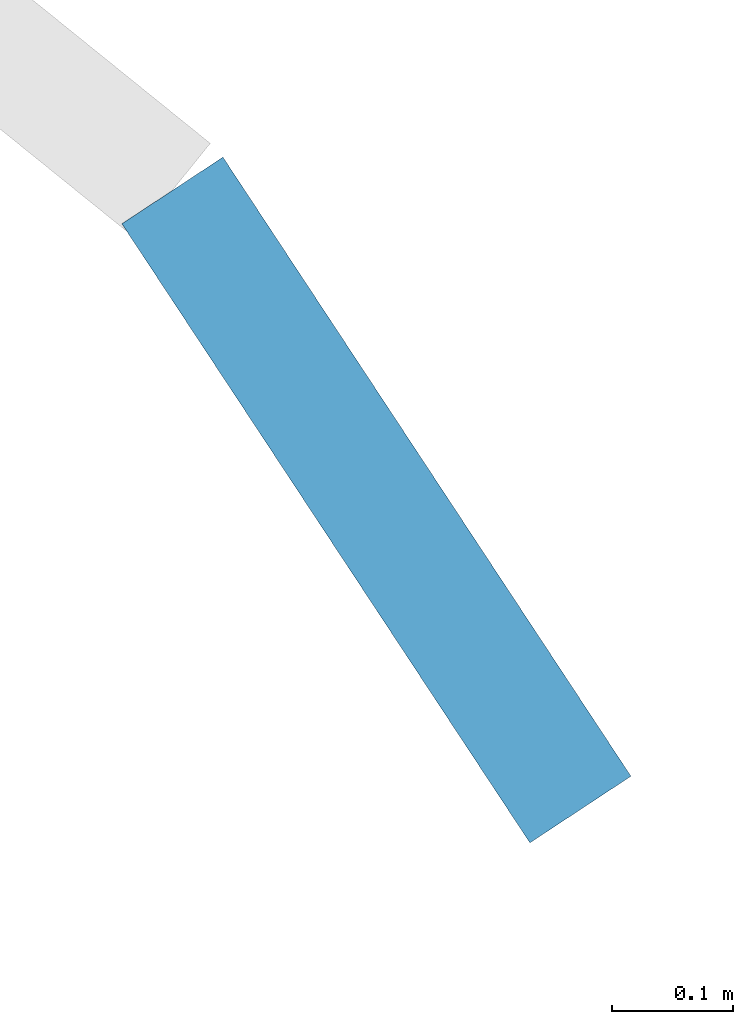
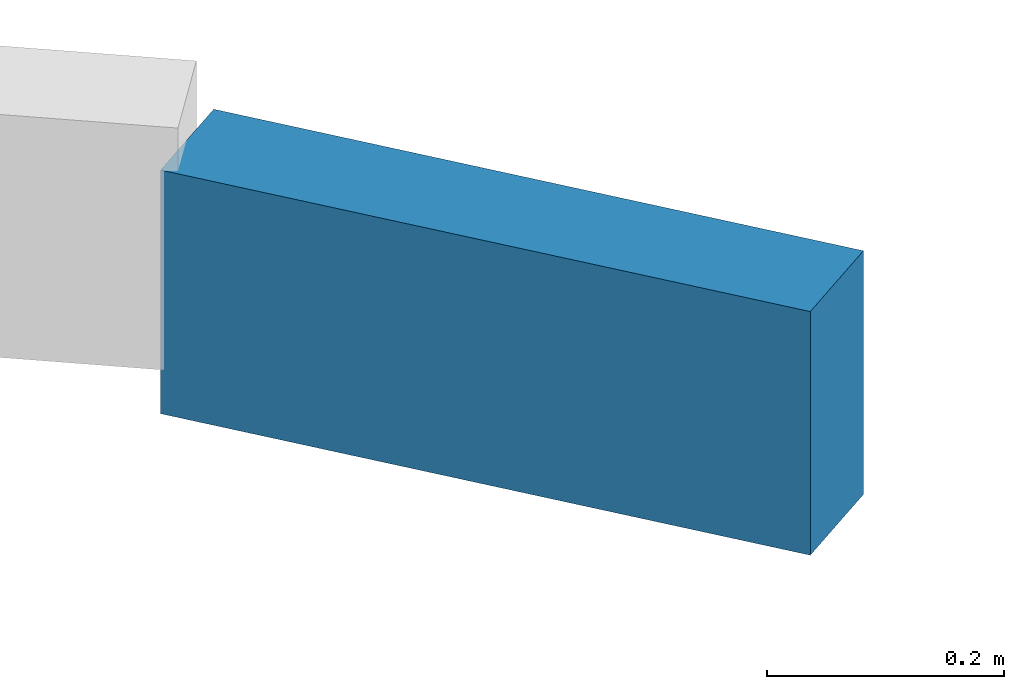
# One storey, part 38 of 157: 1 beam.
"""IFC2X3 building model written with IfcOpenShell, lengths in millimetres."""

from ifc_helpers import new_model, entity, si_unit, converted_unit, derived_unit, direction, frame, origin, place, context, subcontext, project, spatial, polyline, outline, extrude, material, type_object, element, save


model = new_model("IFC2X3")

# Units and contexts
model_context = context("Model", 3, precision=0.01, world=origin(), true_north=direction((6.123031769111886e-17, 1.0)))
body_context = subcontext(model_context, "Body", "Model", "MODEL_VIEW")
ifc_project = project(units=[si_unit("LENGTHUNIT", "METRE", prefix="MILLI"), si_unit("AREAUNIT", "SQUARE_METRE"), si_unit("VOLUMEUNIT", "CUBIC_METRE"), converted_unit("PLANEANGLEUNIT", "DEGREE", entity("IfcRatioMeasure", 0.017453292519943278), si_unit("PLANEANGLEUNIT", "RADIAN"), dimensions=[0, 0, 0, 0, 0, 0, 0]), si_unit("MASSUNIT", "GRAM", prefix="KILO"), derived_unit("MASSDENSITYUNIT", [(si_unit("MASSUNIT", "GRAM", prefix="KILO"), 1), (si_unit("LENGTHUNIT", "METRE"), -3)]), derived_unit("MOMENTOFINERTIAUNIT", [(si_unit("LENGTHUNIT", "METRE"), 4)]), si_unit("TIMEUNIT", "SECOND"), si_unit("FREQUENCYUNIT", "HERTZ"), si_unit("THERMODYNAMICTEMPERATUREUNIT", "DEGREE_CELSIUS"), derived_unit("THERMALTRANSMITTANCEUNIT", [(si_unit("MASSUNIT", "GRAM", prefix="KILO"), 1), (si_unit("THERMODYNAMICTEMPERATUREUNIT", "KELVIN"), -1), (si_unit("TIMEUNIT", "SECOND"), -3)]), derived_unit("THERMALCONDUCTANCEUNIT", [(si_unit("MASSUNIT", "GRAM", prefix="KILO"), 1), (si_unit("LENGTHUNIT", "METRE"), 1), (si_unit("THERMODYNAMICTEMPERATUREUNIT", "KELVIN"), -1), (si_unit("TIMEUNIT", "SECOND"), -3)]), derived_unit("VOLUMETRICFLOWRATEUNIT", [(si_unit("LENGTHUNIT", "METRE"), 3), (si_unit("TIMEUNIT", "SECOND"), -1)]), derived_unit("MASSFLOWRATEUNIT", [(si_unit("MASSUNIT", "GRAM", prefix="KILO"), 1), (si_unit("TIMEUNIT", "SECOND"), -1)]), derived_unit("ROTATIONALFREQUENCYUNIT", [(si_unit("TIMEUNIT", "SECOND"), -1)]), si_unit("ELECTRICCURRENTUNIT", "AMPERE"), si_unit("ELECTRICVOLTAGEUNIT", "VOLT"), si_unit("POWERUNIT", "WATT"), converted_unit("FORCEUNIT", "KIP", entity("IfcRatioMeasure", 2.088543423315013e-05), si_unit("FORCEUNIT", "NEWTON"), dimensions=[1, 1, -2, 0, 0, 0, 0]), si_unit("ILLUMINANCEUNIT", "LUX"), si_unit("LUMINOUSFLUXUNIT", "LUMEN"), si_unit("LUMINOUSINTENSITYUNIT", "CANDELA"), derived_unit("USERDEFINED", [(si_unit("MASSUNIT", "GRAM", prefix="KILO"), -1), (si_unit("LENGTHUNIT", "METRE"), -2), (si_unit("TIMEUNIT", "SECOND"), 3), (si_unit("LUMINOUSFLUXUNIT", "LUMEN"), 1)]), derived_unit("USERDEFINED", [(si_unit("MASSUNIT", "GRAM", prefix="KILO"), 1), (si_unit("LENGTHUNIT", "METRE"), 3), (si_unit("TIMEUNIT", "SECOND"), -3), (si_unit("ELECTRICCURRENTUNIT", "AMPERE"), -2)]), derived_unit("USERDEFINED", [(si_unit("LENGTHUNIT", "METRE"), 2), (si_unit("TIMEUNIT", "SECOND"), -2)]), derived_unit("SOUNDPOWERUNIT", [(si_unit("MASSUNIT", "GRAM", prefix="KILO"), 1), (si_unit("LENGTHUNIT", "METRE"), 2), (si_unit("TIMEUNIT", "SECOND"), -3)]), derived_unit("SOUNDPRESSUREUNIT", [(si_unit("MASSUNIT", "GRAM", prefix="KILO"), 1), (si_unit("LENGTHUNIT", "METRE"), -1), (si_unit("TIMEUNIT", "SECOND"), -2)]), derived_unit("LINEARVELOCITYUNIT", [(si_unit("LENGTHUNIT", "METRE"), 1), (si_unit("TIMEUNIT", "SECOND"), -1)]), si_unit("PRESSUREUNIT", "PASCAL"), derived_unit("USERDEFINED", [(si_unit("LENGTHUNIT", "METRE"), -2), (si_unit("MASSUNIT", "GRAM", prefix="KILO"), 1), (si_unit("TIMEUNIT", "SECOND"), -2)]), derived_unit("LINEARFORCEUNIT", [(si_unit("MASSUNIT", "GRAM", prefix="KILO"), 1), (si_unit("LENGTHUNIT", "METRE"), 1), (si_unit("TIMEUNIT", "SECOND"), -2), (si_unit("LENGTHUNIT", "METRE"), -1)]), derived_unit("PLANARFORCEUNIT", [(si_unit("MASSUNIT", "GRAM", prefix="KILO"), 1), (si_unit("LENGTHUNIT", "METRE"), 1), (si_unit("TIMEUNIT", "SECOND"), -2), (si_unit("LENGTHUNIT", "METRE"), -2)]), derived_unit("SPECIFICHEATCAPACITYUNIT", [(si_unit("LENGTHUNIT", "METRE"), 2), (si_unit("TIMEUNIT", "SECOND"), -2), (si_unit("THERMODYNAMICTEMPERATUREUNIT", "KELVIN"), -1)]), derived_unit("VAPORPERMEABILITYUNIT", [(si_unit("TIMEUNIT", "SECOND"), 1), (si_unit("LENGTHUNIT", "METRE"), -1)]), derived_unit("DYNAMICVISCOSITYUNIT", [(si_unit("MASSUNIT", "GRAM", prefix="KILO"), 1), (si_unit("LENGTHUNIT", "METRE"), -1), (si_unit("TIMEUNIT", "SECOND"), -1)]), derived_unit("THERMALEXPANSIONCOEFFICIENTUNIT", [(si_unit("THERMODYNAMICTEMPERATUREUNIT", "KELVIN"), -1)])], contexts=[model_context])

# Site, building, storey
site_placement = place(None, frame((0.0, 0.0, 0.0), z_axis=(0.0, 0.0, 1.0), x_axis=(0.8191520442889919, 0.5735764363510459, 0.0)))
site = spatial("IfcSite", under=ifc_project, at=site_placement, Name="Default", CompositionType="ELEMENT")
building_placement = place(site_placement, origin())
building = spatial("IfcBuilding", under=site, at=building_placement, CompositionType="ELEMENT")
storey_placement = place(building_placement, origin())
storey = spatial("IfcBuildingStorey", under=building, at=storey_placement, Name="1.EG +0.00", CompositionType="ELEMENT", Elevation=-4.331468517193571e-12)

# Beam
ifc_material = material(Name="Paint-01")
beam_type = type_object("IfcBeamType", Name="Beam-145 236815:Beam-145 236815", PredefinedType="NOTDEFINED")
beam_placement = place(storey_placement, origin())
element("IfcBeam", 1, at=beam_placement, inside=storey, type_object=beam_type, material=ifc_material, Name="Beam-145", ObjectType="Beam-145 236815:Beam-145 236815", context=body_context, shape_type="SweptSolid", body=[
    extrude(outline(polyline([(-297.6450607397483, -125.0), (316.6042637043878, -125.0), (297.6450607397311, 125.0), (-316.6042637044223, 125.0), (-297.6450607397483, -125.0)])), frame((-18131.253446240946, -150813.42473844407, 251.4163980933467), z_axis=(0.9996058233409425, -0.028074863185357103, 0.0), x_axis=(0.027994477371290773, 0.9967436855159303, -0.07561967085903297)), (0.0, 0.0, 1.0), 99.99999999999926),
])

save(model, "model.ifc")
